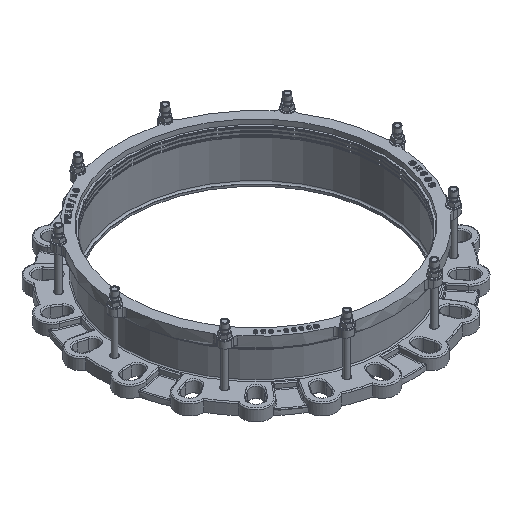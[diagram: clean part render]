
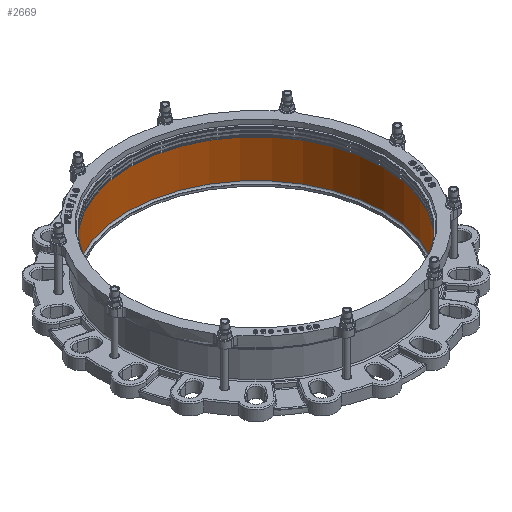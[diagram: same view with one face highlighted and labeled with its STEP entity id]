
A CAD part, isometric view. The second image highlights one B-rep face of the part: STEP entity #2669.
In plain terms, the highlighted cylindrical face has radius 325 mm (diameter 650 mm), a full revolution.
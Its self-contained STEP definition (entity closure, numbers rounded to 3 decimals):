
#2669=ADVANCED_FACE('',(#19766,#19768),#19770,.F.);
#19766=FACE_OUTER_BOUND('',#19767,.T.);
#19767=EDGE_LOOP('',(#28412));
#19768=FACE_OUTER_BOUND('',#19769,.T.);
#19769=EDGE_LOOP('',(#28413));
#19770=CYLINDRICAL_SURFACE('',#19771,325.);
#19771=AXIS2_PLACEMENT_3D('',#19772,#19773,#19774);
#19772=CARTESIAN_POINT('',(0.,0.,5.));
#19773=DIRECTION('',(0.,0.,1.));
#19774=DIRECTION('',(-1.,0.,0.));
#28412=ORIENTED_EDGE('',*,*,#35331,.F.);
#28413=ORIENTED_EDGE('',*,*,#35332,.T.);
#35331=EDGE_CURVE('',#40249,#40249,#40250,.T.);
#35332=EDGE_CURVE('',#40251,#40251,#40252,.F.);
#40249=VERTEX_POINT('',#58491);
#40250=CIRCLE('',#58492,325.);
#40251=VERTEX_POINT('',#58496);
#40252=CIRCLE('',#58497,325.);
#58491=CARTESIAN_POINT('',(0.,325.,106.));
#58492=AXIS2_PLACEMENT_3D('',#58493,#58494,#58495);
#58493=CARTESIAN_POINT('',(0.,0.,106.));
#58494=DIRECTION('',(0.,0.,-1.));
#58495=DIRECTION('',(0.,1.,0.));
#58496=CARTESIAN_POINT('',(0.,325.,9.));
#58497=AXIS2_PLACEMENT_3D('',#58498,#58499,#58500);
#58498=CARTESIAN_POINT('',(0.,0.,9.));
#58499=DIRECTION('',(0.,0.,1.));
#58500=DIRECTION('',(0.,1.,0.));
